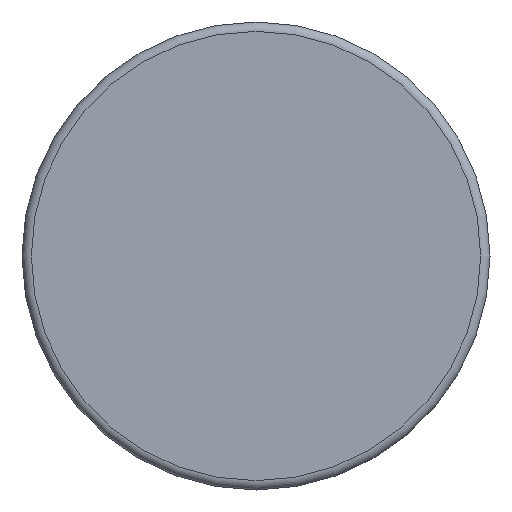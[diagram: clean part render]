
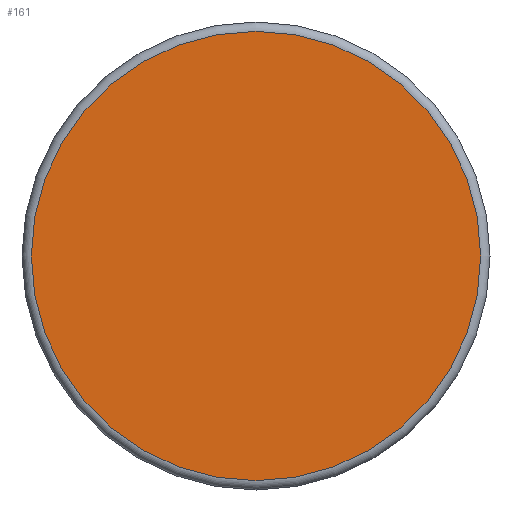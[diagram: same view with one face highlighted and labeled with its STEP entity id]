
A CAD part, front view. The second image highlights one B-rep face of the part: STEP entity #161.
In plain terms, the highlighted planar face has unit normal (0, -1, 0).
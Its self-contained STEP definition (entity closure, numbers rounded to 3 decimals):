
#161 = ADVANCED_FACE( '', ( #330 ), #331, .F. );
#330 = FACE_OUTER_BOUND( '', #530, .T. );
#331 = PLANE( '', #531 );
#530 = EDGE_LOOP( '', ( #756 ) );
#531 = AXIS2_PLACEMENT_3D( '', #757, #758, #759 );
#756 = ORIENTED_EDGE( '', *, *, #1148, .T. );
#757 = CARTESIAN_POINT( '', ( 24., 0., 0. ) );
#758 = DIRECTION( '', ( 0., 1., 0. ) );
#759 = DIRECTION( '', ( 0., 0., 1. ) );
#1148 = EDGE_CURVE( '', #1332, #1332, #1333, .T. );
#1332 = VERTEX_POINT( '', #1596 );
#1333 = CIRCLE( '', #1597, 24. );
#1596 = CARTESIAN_POINT( '', ( 0., 0., -24. ) );
#1597 = AXIS2_PLACEMENT_3D( '', #2053, #2054, #2055 );
#2053 = CARTESIAN_POINT( '', ( 0., 0., 0. ) );
#2054 = DIRECTION( '', ( 0., -1., 0. ) );
#2055 = DIRECTION( '', ( 0., 0., -1. ) );
